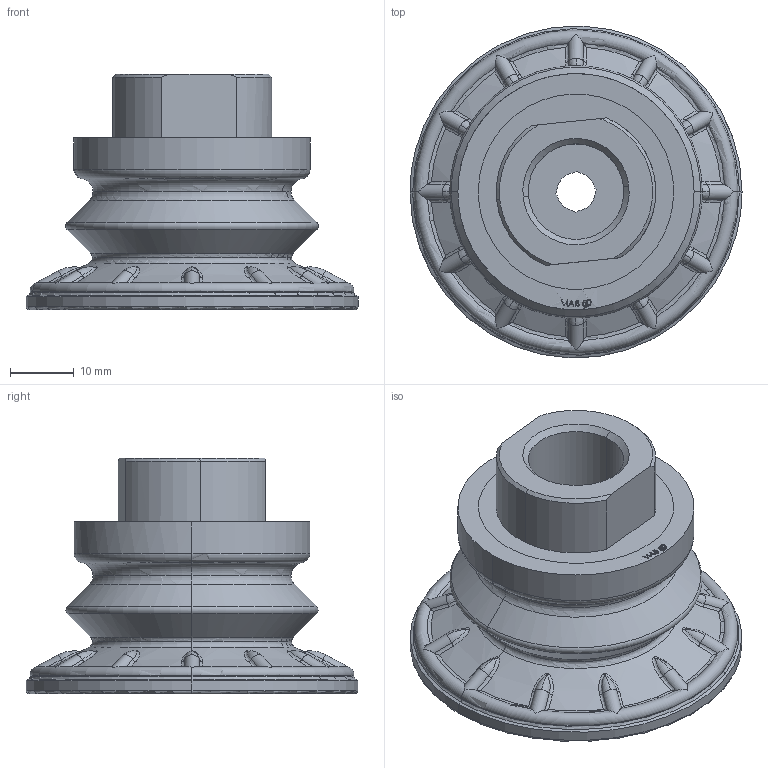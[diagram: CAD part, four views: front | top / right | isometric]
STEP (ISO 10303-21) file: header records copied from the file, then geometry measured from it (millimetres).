
FILE_DESCRIPTION (( 'STEP AP203' ), '1' );
FILE_NAME ('ZSAB50N-F03.STEP', '2022-03-31T14:26:56', ( '' ), ( '' ), 'SwSTEP 2.0', 'SolidWorks 2019', '' );
FILE_SCHEMA (( 'CONFIG_CONTROL_DESIGN' ));
Length unit declared in the file: millimetre
Products named in the file (1): ZSAB50N-F03
Bounding box: 52 x 51.97 x 36.93 mm (x, y, z)
Surface area: 10061 mm2 (no closed solid volume)
Topology: 0 solids, 4 shells, 188 faces, 464 edges, 293 vertices
Faces by surface type: bspline 65, torus 56, plane 31, cylinder 23, cone 13
Entity records: 12408 total; most frequent: CARTESIAN_POINT 9128, ORIENTED_EDGE 923, EDGE_CURVE 464, B_SPLINE_CURVE_WITH_KNOTS 428, VERTEX_POINT 293, DIRECTION 244, EDGE_LOOP 200, ADVANCED_FACE 186
